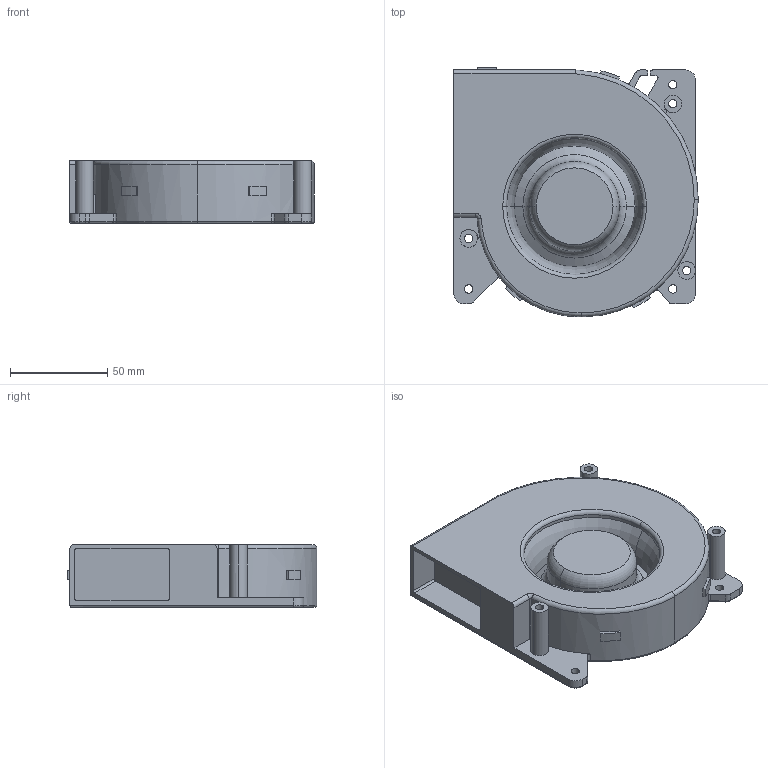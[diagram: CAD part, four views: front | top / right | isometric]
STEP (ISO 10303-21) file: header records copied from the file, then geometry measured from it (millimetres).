
FILE_DESCRIPTION (( 'STEP AP214' ), '1' );
FILE_NAME ('109BJ僀儞億乕僩2.STEP', '2017-01-19T07:15:27', ( '' ), ( '' ), 'SwSTEP 2.0', 'SolidWorks 2016', '' );
FILE_SCHEMA (( 'AUTOMOTIVE_DESIGN' ));
Length unit declared in the file: millimetre
Products named in the file (1): 109BJインポート2
Bounding box: 125.4 x 128.3 x 32.2 mm (x, y, z)
Volume: 356416.5 mm3; surface area: 61213.9 mm2
Topology: 1 solids, 1 shells, 401 faces, 1019 edges, 631 vertices
Faces by surface type: cylinder 201, plane 100, torus 94, sphere 4, cone 2
Entity records: 12383 total; most frequent: DIRECTION 2409, CARTESIAN_POINT 2183, ORIENTED_EDGE 2030, EDGE_CURVE 1015, AXIS2_PLACEMENT_3D 1004, VERTEX_POINT 631, CIRCLE 602, EDGE_LOOP 428
